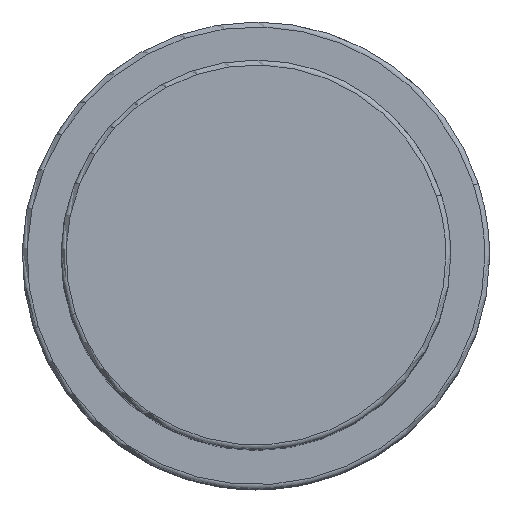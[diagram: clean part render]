
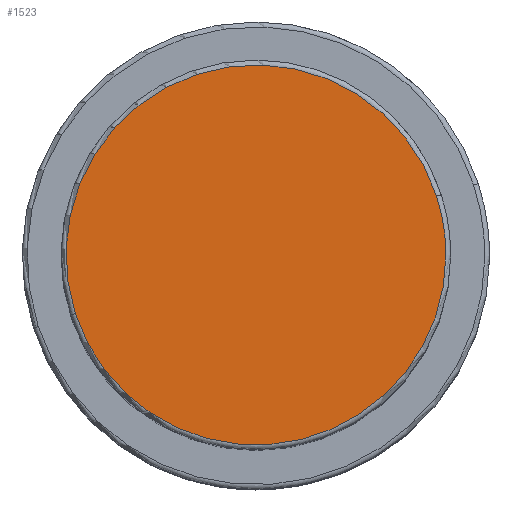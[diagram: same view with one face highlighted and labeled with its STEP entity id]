
A CAD part, top view. The second image highlights one B-rep face of the part: STEP entity #1523.
In plain terms, the highlighted planar face has unit normal (0, 0, 1).
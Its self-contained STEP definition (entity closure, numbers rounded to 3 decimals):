
#1489=CARTESIAN_POINT('',(19.5,0.0,63.5));
#1490=VERTEX_POINT('',#1489);
#1491=CARTESIAN_POINT('',(18.546,6.026,63.5));
#1492=VERTEX_POINT('',#1491);
#1493=CARTESIAN_POINT('',(0.0,0.0,63.5));
#1494=DIRECTION('',(0.0,0.0,1.0));
#1495=DIRECTION('',(1.0,0.0,0.0));
#1496=AXIS2_PLACEMENT_3D('',#1493,#1494,#1495);
#1497=CIRCLE('',#1496,19.5);
#1498=EDGE_CURVE('no 1762',#1490,#1492,#1497,.T.);
#1499=ORIENTED_EDGE('',*,*,#1498,.T.);
#1500=CARTESIAN_POINT('',(-18.546,-6.026,63.5));
#1501=VERTEX_POINT('',#1500);
#1502=CARTESIAN_POINT('',(0.0,0.0,63.5));
#1503=DIRECTION('',(0.0,0.0,1.0));
#1504=DIRECTION('',(1.0,0.0,0.0));
#1505=AXIS2_PLACEMENT_3D('',#1502,#1503,#1504);
#1506=CIRCLE('',#1505,19.5);
#1507=EDGE_CURVE('no 1768',#1492,#1501,#1506,.T.);
#1508=ORIENTED_EDGE('',*,*,#1507,.T.);
#1509=CARTESIAN_POINT('',(0.0,0.0,63.5));
#1510=DIRECTION('',(0.0,0.0,1.0));
#1511=DIRECTION('',(1.0,0.0,0.0));
#1512=AXIS2_PLACEMENT_3D('',#1509,#1510,#1511);
#1513=CIRCLE('',#1512,19.5);
#1514=EDGE_CURVE('no 1772',#1501,#1490,#1513,.T.);
#1515=ORIENTED_EDGE('',*,*,#1514,.T.);
#1516=EDGE_LOOP('',(#1499,#1508,#1515));
#1517=FACE_OUTER_BOUND('',#1516,.T.);
#1518=CARTESIAN_POINT('',(0.0,0.0,63.5));
#1519=DIRECTION('',(0.0,0.0,1.0));
#1520=DIRECTION('',(1.0,0.0,0.0));
#1521=AXIS2_PLACEMENT_3D('',#1518,#1519,#1520);
#1522=PLANE('',#1521);
#1523=ADVANCED_FACE('no 1753',(#1517),#1522,.T.);
